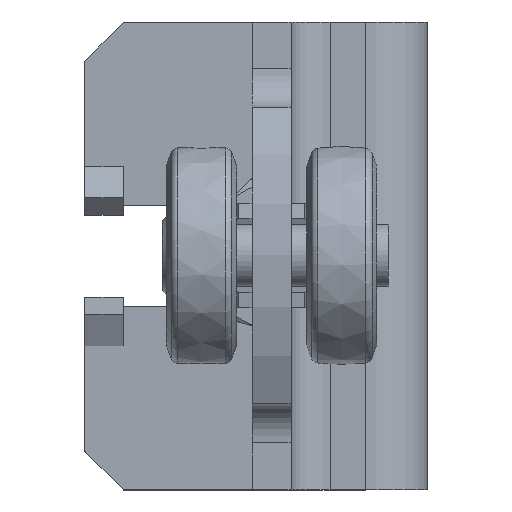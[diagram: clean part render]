
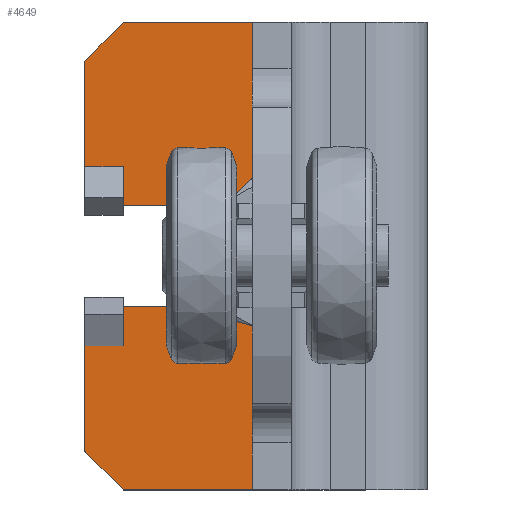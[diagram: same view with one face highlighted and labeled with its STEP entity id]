
A CAD part, top view. The second image highlights one B-rep face of the part: STEP entity #4649.
In plain terms, the highlighted planar face has unit normal (0, 0, 1).
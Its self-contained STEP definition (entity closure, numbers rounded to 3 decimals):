
#262=CIRCLE('',#5083,6.5);
#526=FACE_OUTER_BOUND('',#798,.T.);
#798=EDGE_LOOP('',(#3123,#3124,#3125,#3126,#3127,#3128,#3129,#3130,#3131,
#3132,#3133,#3134,#3135,#3136,#3137,#3138,#3139,#3140));
#1101=LINE('',#7187,#1513);
#1103=LINE('',#7191,#1515);
#1104=LINE('',#7193,#1516);
#1105=LINE('',#7195,#1517);
#1106=LINE('',#7197,#1518);
#1107=LINE('',#7199,#1519);
#1108=LINE('',#7201,#1520);
#1109=LINE('',#7203,#1521);
#1110=LINE('',#7205,#1522);
#1111=LINE('',#7207,#1523);
#1112=LINE('',#7209,#1524);
#1113=LINE('',#7211,#1525);
#1114=LINE('',#7213,#1526);
#1115=LINE('',#7217,#1527);
#1116=LINE('',#7219,#1528);
#1117=LINE('',#7221,#1529);
#1118=LINE('',#7222,#1530);
#1513=VECTOR('',#5676,10.);
#1515=VECTOR('',#5680,10.);
#1516=VECTOR('',#5681,10.);
#1517=VECTOR('',#5682,10.);
#1518=VECTOR('',#5683,10.);
#1519=VECTOR('',#5684,10.);
#1520=VECTOR('',#5685,10.);
#1521=VECTOR('',#5686,10.);
#1522=VECTOR('',#5687,10.);
#1523=VECTOR('',#5688,10.);
#1524=VECTOR('',#5689,10.);
#1525=VECTOR('',#5690,10.);
#1526=VECTOR('',#5691,10.);
#1527=VECTOR('',#5694,10.);
#1528=VECTOR('',#5695,10.);
#1529=VECTOR('',#5696,10.);
#1530=VECTOR('',#5697,10.);
#1922=VERTEX_POINT('',#7171);
#1925=VERTEX_POINT('',#7178);
#1927=VERTEX_POINT('',#7190);
#1928=VERTEX_POINT('',#7192);
#1929=VERTEX_POINT('',#7194);
#1930=VERTEX_POINT('',#7196);
#1931=VERTEX_POINT('',#7198);
#1932=VERTEX_POINT('',#7200);
#1933=VERTEX_POINT('',#7202);
#1934=VERTEX_POINT('',#7204);
#1935=VERTEX_POINT('',#7206);
#1936=VERTEX_POINT('',#7208);
#1937=VERTEX_POINT('',#7210);
#1938=VERTEX_POINT('',#7212);
#1939=VERTEX_POINT('',#7214);
#1940=VERTEX_POINT('',#7216);
#1941=VERTEX_POINT('',#7218);
#1942=VERTEX_POINT('',#7220);
#2395=EDGE_CURVE('',#1922,#1925,#1101,.T.);
#2397=EDGE_CURVE('',#1927,#1925,#1103,.T.);
#2398=EDGE_CURVE('',#1928,#1927,#1104,.T.);
#2399=EDGE_CURVE('',#1929,#1928,#1105,.T.);
#2400=EDGE_CURVE('',#1929,#1930,#1106,.T.);
#2401=EDGE_CURVE('',#1931,#1930,#1107,.T.);
#2402=EDGE_CURVE('',#1932,#1931,#1108,.T.);
#2403=EDGE_CURVE('',#1933,#1932,#1109,.T.);
#2404=EDGE_CURVE('',#1933,#1934,#1110,.T.);
#2405=EDGE_CURVE('',#1934,#1935,#1111,.T.);
#2406=EDGE_CURVE('',#1935,#1936,#1112,.T.);
#2407=EDGE_CURVE('',#1936,#1937,#1113,.T.);
#2408=EDGE_CURVE('',#1938,#1937,#1114,.T.);
#2409=EDGE_CURVE('',#1939,#1938,#262,.T.);
#2410=EDGE_CURVE('',#1940,#1939,#1115,.T.);
#2411=EDGE_CURVE('',#1940,#1941,#1116,.T.);
#2412=EDGE_CURVE('',#1941,#1942,#1117,.T.);
#2413=EDGE_CURVE('',#1942,#1922,#1118,.T.);
#3123=ORIENTED_EDGE('',*,*,#2395,.T.);
#3124=ORIENTED_EDGE('',*,*,#2397,.F.);
#3125=ORIENTED_EDGE('',*,*,#2398,.F.);
#3126=ORIENTED_EDGE('',*,*,#2399,.F.);
#3127=ORIENTED_EDGE('',*,*,#2400,.T.);
#3128=ORIENTED_EDGE('',*,*,#2401,.F.);
#3129=ORIENTED_EDGE('',*,*,#2402,.F.);
#3130=ORIENTED_EDGE('',*,*,#2403,.F.);
#3131=ORIENTED_EDGE('',*,*,#2404,.T.);
#3132=ORIENTED_EDGE('',*,*,#2405,.T.);
#3133=ORIENTED_EDGE('',*,*,#2406,.T.);
#3134=ORIENTED_EDGE('',*,*,#2407,.T.);
#3135=ORIENTED_EDGE('',*,*,#2408,.F.);
#3136=ORIENTED_EDGE('',*,*,#2409,.F.);
#3137=ORIENTED_EDGE('',*,*,#2410,.F.);
#3138=ORIENTED_EDGE('',*,*,#2411,.T.);
#3139=ORIENTED_EDGE('',*,*,#2412,.T.);
#3140=ORIENTED_EDGE('',*,*,#2413,.T.);
#4499=PLANE('',#5082);
#4649=ADVANCED_FACE('',(#526),#4499,.T.);
#5082=AXIS2_PLACEMENT_3D('',#7189,#5678,#5679);
#5083=AXIS2_PLACEMENT_3D('',#7215,#5692,#5693);
#5676=DIRECTION('',(-1.,0.,0.));
#5678=DIRECTION('center_axis',(0.,0.,1.));
#5679=DIRECTION('ref_axis',(1.,0.,0.));
#5680=DIRECTION('',(0.,1.,0.));
#5681=DIRECTION('',(-0.707,0.707,0.));
#5682=DIRECTION('',(-1.,0.,0.));
#5683=DIRECTION('',(0.,1.,0.));
#5684=DIRECTION('',(1.,0.,0.));
#5685=DIRECTION('',(0.707,0.707,0.));
#5686=DIRECTION('',(0.,1.,0.));
#5687=DIRECTION('',(1.,0.,0.));
#5688=DIRECTION('',(0.,1.,0.));
#5689=DIRECTION('',(1.,0.,0.));
#5690=DIRECTION('',(0.,-1.,0.));
#5691=DIRECTION('',(-1.,0.,0.));
#5692=DIRECTION('center_axis',(0.,0.,1.));
#5693=DIRECTION('ref_axis',(0.,-1.,0.));
#5694=DIRECTION('',(1.,0.,0.));
#5695=DIRECTION('',(0.,-1.,0.));
#5696=DIRECTION('',(-1.,0.,0.));
#5697=DIRECTION('',(0.,1.,0.));
#7171=CARTESIAN_POINT('',(-20.,-11.49,0.));
#7178=CARTESIAN_POINT('',(-25.,-11.49,0.));
#7187=CARTESIAN_POINT('',(-2.647,-11.49,0.));
#7189=CARTESIAN_POINT('Origin',(19.706,0.,0.));
#7190=CARTESIAN_POINT('',(-25.,-25.,0.));
#7191=CARTESIAN_POINT('',(-25.,-25.,0.));
#7192=CARTESIAN_POINT('',(-20.,-30.,0.));
#7193=CARTESIAN_POINT('',(-20.,-30.,0.));
#7194=CARTESIAN_POINT('',(11.,-30.,0.));
#7195=CARTESIAN_POINT('',(49.,-30.,0.));
#7196=CARTESIAN_POINT('',(11.,30.,0.));
#7197=CARTESIAN_POINT('',(11.,15.,0.));
#7198=CARTESIAN_POINT('',(-20.,30.,0.));
#7199=CARTESIAN_POINT('',(-20.,30.,0.));
#7200=CARTESIAN_POINT('',(-25.,25.,0.));
#7201=CARTESIAN_POINT('',(-25.,25.,0.));
#7202=CARTESIAN_POINT('',(-25.,11.49,0.));
#7203=CARTESIAN_POINT('',(-25.,6.5,0.));
#7204=CARTESIAN_POINT('',(-20.,11.49,0.));
#7205=CARTESIAN_POINT('',(-0.147,11.49,0.));
#7206=CARTESIAN_POINT('',(-20.,11.5,0.));
#7207=CARTESIAN_POINT('',(-20.,5.75,0.));
#7208=CARTESIAN_POINT('',(-19.99,11.5,0.));
#7209=CARTESIAN_POINT('',(-0.142,11.5,0.));
#7210=CARTESIAN_POINT('',(-19.99,6.5,0.));
#7211=CARTESIAN_POINT('',(-19.99,3.25,0.));
#7212=CARTESIAN_POINT('',(0.,6.5,0.));
#7213=CARTESIAN_POINT('',(0.,6.5,0.));
#7214=CARTESIAN_POINT('',(0.,-6.5,0.));
#7215=CARTESIAN_POINT('Origin',(0.,0.,0.));
#7216=CARTESIAN_POINT('',(-19.99,-6.5,0.));
#7217=CARTESIAN_POINT('',(-25.,-6.5,0.));
#7218=CARTESIAN_POINT('',(-19.99,-11.5,0.));
#7219=CARTESIAN_POINT('',(-19.99,-5.75,0.));
#7220=CARTESIAN_POINT('',(-20.,-11.5,0.));
#7221=CARTESIAN_POINT('',(-0.147,-11.5,0.));
#7222=CARTESIAN_POINT('',(-20.,-3.25,0.));
